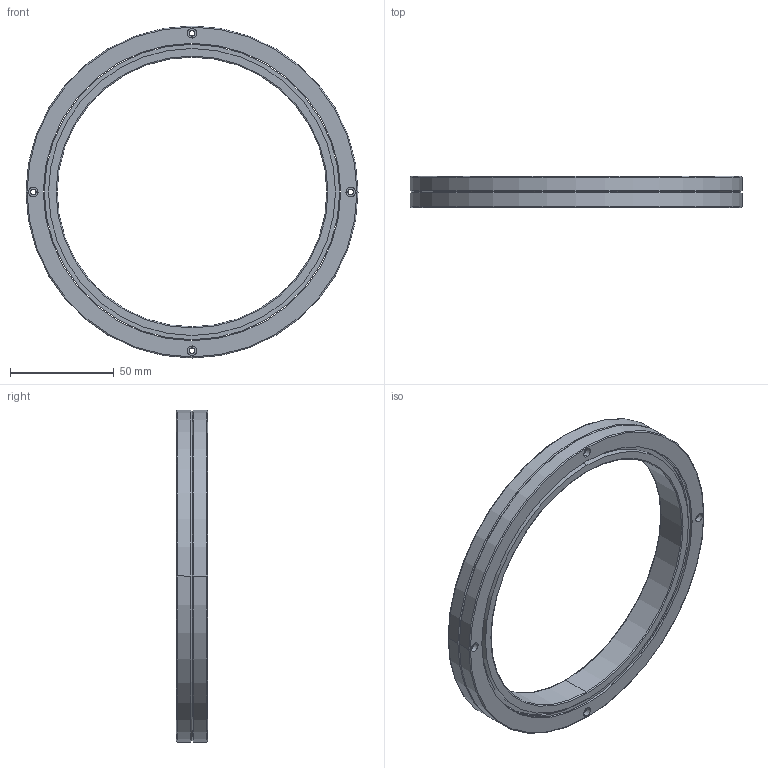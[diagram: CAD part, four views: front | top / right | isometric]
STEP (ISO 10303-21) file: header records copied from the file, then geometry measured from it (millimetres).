
FILE_DESCRIPTION((''),'2;1');
FILE_NAME('RB13015','2015-07-18T',('Administrator'),(''),'PRO/ENGINEER BY PARAMETRIC TECHNOLOGY CORPORATION, 2010180','PRO/ENGINEER BY PARAMETRIC TECHNOLOGY CORPORATION, 2010180','');
FILE_SCHEMA(('AUTOMOTIVE_DESIGN_CC2 { 1 2 10303 214 -1 1 5 2 }'));
Length unit declared in the file: millimetre
Products named in the file (1): RB13015
Bounding box: 160 x 15 x 160 mm (x, y, z)
Volume: 82300.2 mm3; surface area: 47089.8 mm2
Topology: 2 solids, 2 shells, 88 faces, 184 edges, 114 vertices
Faces by surface type: cylinder 50, plane 18, cone 12, torus 8
Entity records: 2497 total; most frequent: DIRECTION 482, CARTESIAN_POINT 386, ORIENTED_EDGE 368, AXIS2_PLACEMENT_3D 210, EDGE_CURVE 184, CIRCLE 122, VERTEX_POINT 114, EDGE_LOOP 114
